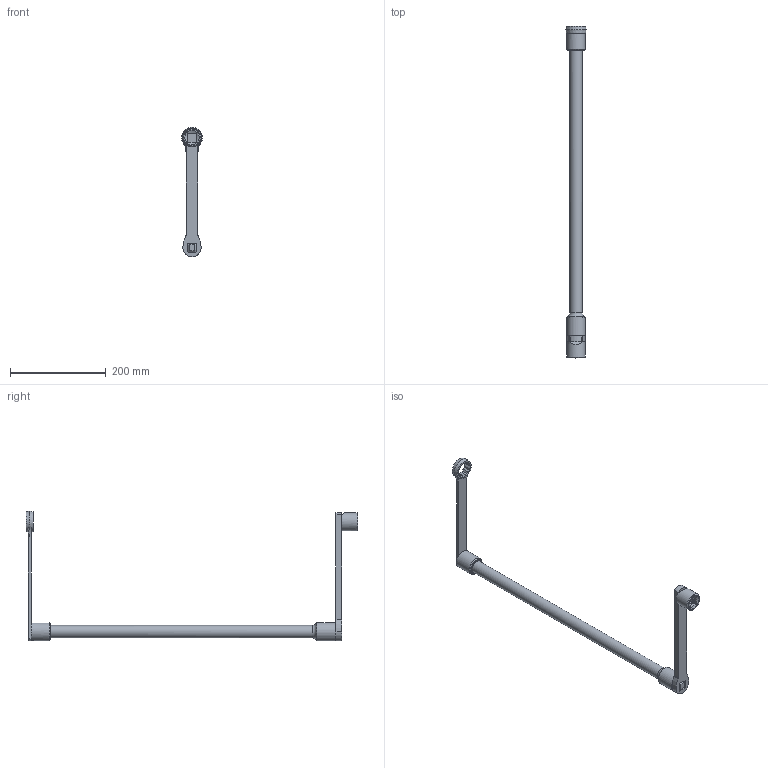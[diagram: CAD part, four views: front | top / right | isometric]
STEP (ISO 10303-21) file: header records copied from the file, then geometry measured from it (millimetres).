
FILE_DESCRIPTION(/* description */ (''),/* implementation_level */ '2;1');
FILE_NAME(/* name */ '2360-264430.00.0.stp',/* time_stamp */ '2026-06-02T11:22:06+08:00',/* author */ (''),/* organization */ (''),/* preprocessor_version */ 'ST-DEVELOPER v15',/* originating_system */ 'SIEMENS PLM Software NX 9.0',/* authorisation */ '');
FILE_SCHEMA (('AUTOMOTIVE_DESIGN { 1 0 10303 214 3 1 1 1 }'));
Length unit declared in the file: millimetre
Products named in the file (4): 2360-264433.00.0; 2360-264432.00.0; 2360-264431.00.0; 2360-264430.00.0
Assembly tree (3 placements, depth 2):
  2360-264430.00.0
    2360-264431.00.0
    2360-264432.00.0
    2360-264433.00.0
Bounding box: 43.39 x 693.5 x 270.75 mm (x, y, z)
Volume: 530968.9 mm3; surface area: 117753.5 mm2
Topology: 8 solids, 8 shells, 247 faces, 594 edges, 365 vertices
Faces by surface type: plane 130, cylinder 47, cone 46, sphere 9, bspline 8, torus 5, extrusion 2
Full cylindrical faces by diameter (mm): 6 x2, 7 x2, 26 x1, 38 x3
Entity records: 8967 total; most frequent: CARTESIAN_POINT 3407, ORIENTED_EDGE 1122, DIRECTION 1092, EDGE_CURVE 561, AXIS2_PLACEMENT_3D 415, VERTEX_POINT 354, EDGE_LOOP 281, VECTOR 262
